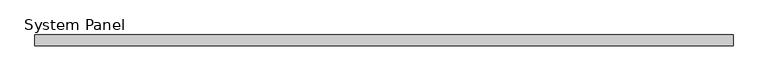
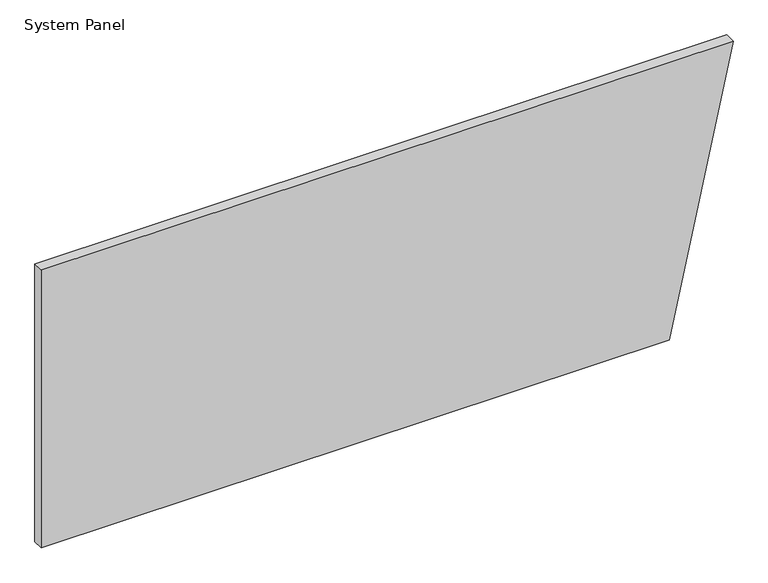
"""IFC4 building model written with IfcOpenShell, lengths in millimetres: plate geometry, System Panel : Purline 25mm Horizontal - Plain RHEA - PUR."""

from ifc_helpers import new_model, si_unit, frame, origin, place, context, project, spatial, polyline, outline, extrude, source, transform, mapped, element, save


def system_panel_59079890(model_context):
    return source(origin(), model_context, "Body", "SweptSolid", [
        extrude(outline(polyline([(0.0, -800.0), (0.0, 652.1791546), (679.9704237, 800.0), (679.9704237, -800.0), (0.0, -800.0)])), frame((0.0, -25.0, 0.0), z_axis=(0.0, 1.0, 0.0), x_axis=(0.0, 0.0, 1.0)), (0.0, 0.0, 1.0), 25.0),
    ])


if __name__ == "__main__":
    model = new_model("IFC4")
    model_context = context("Model", 3, world=origin())
    ifc_project = project(units=[si_unit("LENGTHUNIT", "METRE", prefix="MILLI")], contexts=[model_context])
    site = spatial("IfcSite", under=ifc_project)
    building = spatial("IfcBuilding", under=site)
    placement = place(None, origin())
    system_panel_shape = system_panel_59079890(model_context)
    element("IfcPlate", 1, ObjectType="System Panel : Purline 25mm Horizontal - Plain RHEA - PUR", at=placement, inside=building, context=model_context, shape_type="MappedRepresentation", body=[
        mapped(system_panel_shape, transform((0.0, 0.0, 0.0), x_axis=(1.0, 0.0, 0.0), y_axis=(0.0, 1.0, 0.0), z_axis=(0.0, 0.0, 1.0))),
    ])
    save(model, "model.ifc")
